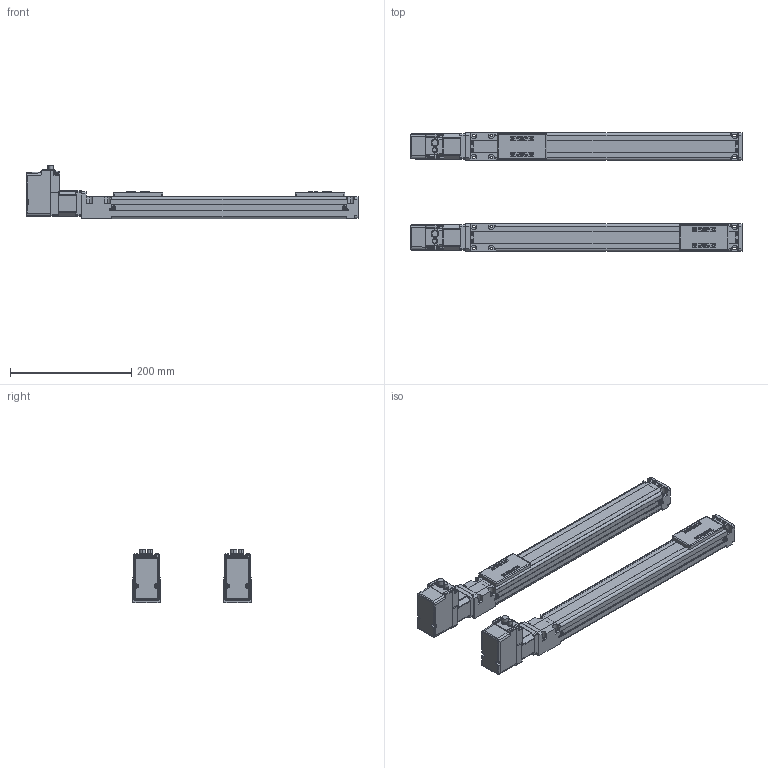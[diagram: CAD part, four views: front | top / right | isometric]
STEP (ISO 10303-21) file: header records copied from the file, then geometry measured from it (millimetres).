
FILE_DESCRIPTION(('STEP AP214'),'1');
FILE_NAME('D:\図面\3D\SCLT4\tmp0.step',' ',(' '),(' '),'XStep 1.0',' ',' ');
FILE_SCHEMA(('automotive_design'));
Length unit declared in the file: millimetre
Products named in the file (30): VLA-45-06-0300-N-000-N-N-N (30) (300)|_VLA-ST-45-12-0300W Body;_VLA-ST-45-12-0300W Body; VLA-45-06-0300-N-000-N-N-N (30) (300)|_VLA-ST-45-12-0050WSlider;_VLA-ST-45-12-0050WSlider; 3; 1; 12; 2; 13; 9; 4; 11; 10; 14
Bounding box: 547 x 195 x 88.5 mm (x, y, z)
Volume: 949806.8 mm3; surface area: 439512.7 mm2
Topology: 30 solids, 30 shells, 2132 faces, 5648 edges, 3580 vertices
Faces by surface type: plane 1132, cylinder 708, cone 204, torus 68, sphere 12, bspline 8
Entity records: 84627 total; most frequent: CARTESIAN_POINT 13122, DIRECTION 11344, ORIENTED_EDGE 11208, EDGE_CURVE 5604, AXIS2_PLACEMENT_3D 3810, LINE 3724, VECTOR 3724, VERTEX_POINT 3580
